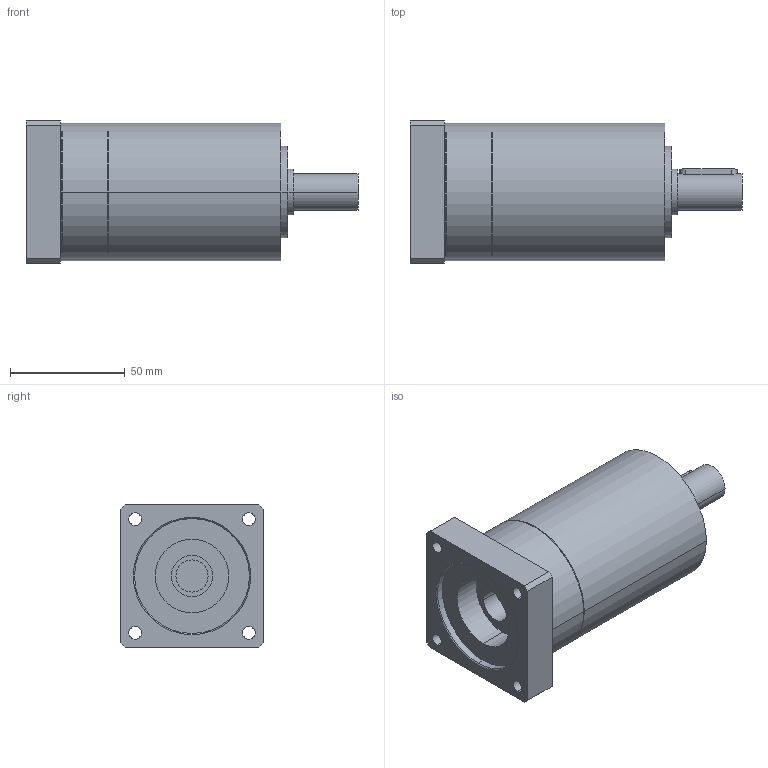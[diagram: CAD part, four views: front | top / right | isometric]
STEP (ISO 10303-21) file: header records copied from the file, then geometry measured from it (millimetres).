
FILE_DESCRIPTION(('CoCreate Modeling STEP Export'),'2;1');
FILE_NAME('GPR75_ig-9-12-16-20-24-30-36_16_B14_14_P23.stp','2014-08-25T16:03:33',(''),(''),'CoCreate Modeling STEP processor for AP214 (Solid Model)','CoCreate Modeling 16.00C 25-Feb-2009 (C) Parametric Technology GmbH','');
FILE_SCHEMA(('AUTOMOTIVE_DESIGN { 1 0 10303 214 1 1 1 1 }'));
Length unit declared in the file: millimetre
Products named in the file (2): GPR75_ig-9-12-16-20-24-30-36_16_B14_14_P23
Assembly tree (1 placements, depth 2):
  GPR75_ig-9-12-16-20-24-30-36_16_B14_14_P23
    GPR75_ig-9-12-16-20-24-30-36_16_B14_14_P23
Bounding box: 144.4 x 62 x 62 mm (x, y, z)
Volume: 316942.6 mm3; surface area: 36498.2 mm2
Topology: 1 solids, 1 shells, 75 faces, 197 edges, 137 vertices
Faces by surface type: cylinder 44, plane 23, cone 8
Entity records: 2039 total; most frequent: ORIENTED_EDGE 390, CARTESIAN_POINT 375, DIRECTION 278, EDGE_CURVE 195, VERTEX_POINT 137, AXIS2_PLACEMENT_3D 104, EDGE_LOOP 98, FACE_OUTER_BOUND 75
